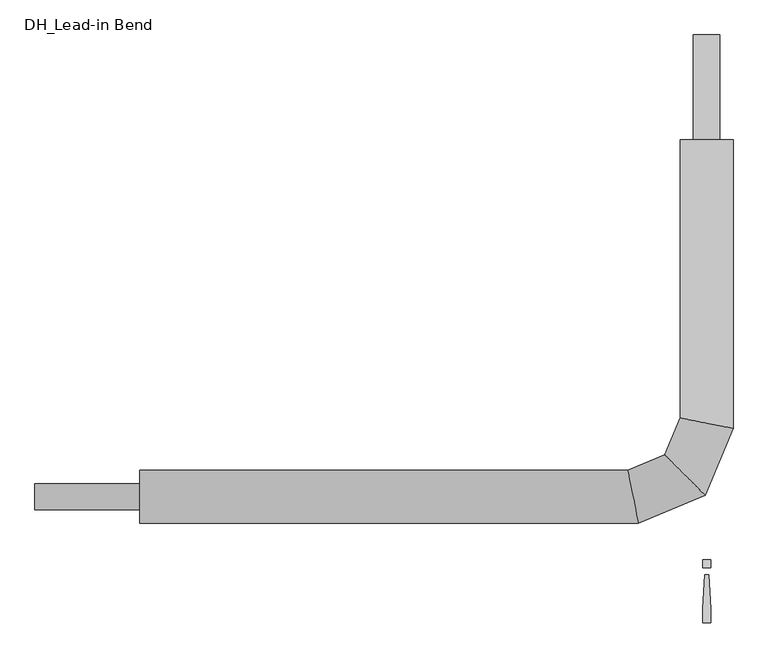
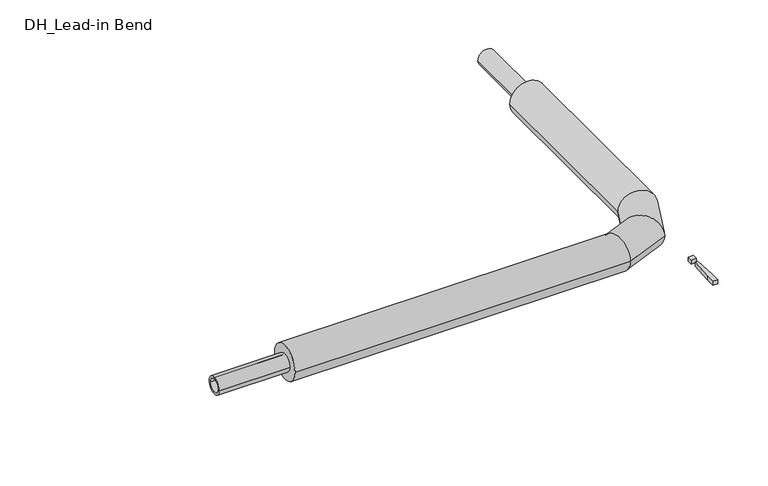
"""IFC4 building model written with IfcOpenShell, lengths in millimetres: pipe fitting geometry, DH_Lead-in Bend : RVT/RVX/RTX UNO 7.4 DW."""

import ifcopenshell
import ifcopenshell.guid

model = None  # the IFC model being written
_history = None  # IfcOwnerHistory: only IFC2X3 demands one
_inside = {}  # id of a spatial element -> (the spatial element, [elements in it])
_under = {}  # id of a project, library or spatial element -> (it, [spatial elements below it])
_declared = {}  # id of a project -> (the project, [libraries it declares])
_typed = {}  # id of a type object -> (the type object, [elements of that type])
_made_of = {}  # id of a material, layer set ... -> (it, [elements and type objects made of it])


def new_model(schema):
    """Start an empty IFC model of exactly this schema.

    Asked for "IFC4X3", IfcOpenShell would pick the latest addendum, in which some entities
    have other attributes; the version numbers below select the first issue.
    IFC2X3 requires an IfcOwnerHistory on every rooted entity: one is made here for all.
    """
    global model, _history
    if schema == "IFC4X3":
        model = ifcopenshell.file(schema_version=(4, 3, 0, 0))
    else:
        model = ifcopenshell.file(schema=schema)
    _inside.clear()
    _under.clear()
    _declared.clear()
    _typed.clear()
    _made_of.clear()
    _history = None
    if model.schema == "IFC2X3":
        org = make("IfcOrganization", Name="unknown")
        user = make(
            "IfcPersonAndOrganization",
            ThePerson=make("IfcPerson", FamilyName="unknown"),
            TheOrganization=org,
        )
        app = make(
            "IfcApplication",
            ApplicationDeveloper=org,
            Version="unknown",
            ApplicationFullName="unknown",
            ApplicationIdentifier="unknown",
        )
        _history = make(
            "IfcOwnerHistory",
            OwningUser=user,
            OwningApplication=app,
            ChangeAction="ADDED",
            CreationDate=0,
        )
    return model


def make(cls, **values):
    """One entity of the class cls with the attributes given. An attribute that is None is left unset."""
    return model.create_entity(
        cls, **{name: value for name, value in values.items() if value is not None}
    )


def rooted(cls, **values):
    """An entity with a GlobalId (a new one), such as an element, a storey or a relation."""
    return make(cls, GlobalId=ifcopenshell.guid.new(), OwnerHistory=_history, **values)


def si_unit(unit_type, name, prefix=None):
    """IfcSIUnit, for example si_unit("LENGTHUNIT", "METRE", prefix="MILLI")."""
    return make("IfcSIUnit", UnitType=unit_type, Prefix=prefix, Name=name)


def assignment(units):
    """IfcUnitAssignment: the units of a project."""
    return None if units is None else make("IfcUnitAssignment", Units=units)


def point(xyz):
    """IfcCartesianPoint."""
    return None if xyz is None else make("IfcCartesianPoint", Coordinates=xyz)


def direction(xyz):
    """IfcDirection."""
    return None if xyz is None else make("IfcDirection", DirectionRatios=xyz)


def frame(location, z_axis=None, x_axis=None):
    """IfcAxis2Placement3D, a coordinate frame: its origin and axes. An axis left out is left unset."""
    return make(
        "IfcAxis2Placement3D",
        Location=point(location),
        Axis=direction(z_axis),
        RefDirection=direction(x_axis),
    )


def frame_2d(location, x_axis=None):
    """IfcAxis2Placement2D, a coordinate frame in the plane: its origin and x axis."""
    return make(
        "IfcAxis2Placement2D", Location=point(location), RefDirection=direction(x_axis)
    )


def origin():
    """The frame at (0, 0, 0) with its axes left unset."""
    return frame((0.0, 0.0, 0.0))


def origin_with_axes():
    """The frame at (0, 0, 0) with the z axis (0, 0, 1) and the x axis (1, 0, 0) written out."""
    return frame((0.0, 0.0, 0.0), z_axis=(0.0, 0.0, 1.0), x_axis=(1.0, 0.0, 0.0))


def origin_2d():
    """The frame at (0, 0) in the plane with its x axis left unset."""
    return frame_2d((0.0, 0.0))


def place(relative_to, where):
    """IfcLocalPlacement: puts the frame where relative to a parent placement (None: the world)."""
    return make(
        "IfcLocalPlacement", PlacementRelTo=relative_to, RelativePlacement=where
    )


def context(
    kind, dimensions, precision=None, world=None, true_north=None, identifier=None
):
    """IfcGeometricRepresentationContext, for example the 3D "Model" context."""
    return make(
        "IfcGeometricRepresentationContext",
        ContextIdentifier=identifier,
        ContextType=kind,
        CoordinateSpaceDimension=dimensions,
        Precision=precision,
        WorldCoordinateSystem=world,
        TrueNorth=true_north,
    )


def project(units=None, contexts=None):
    """IfcProject with its units and contexts."""
    return rooted(
        "IfcProject",
        Name="project",
        RepresentationContexts=contexts,
        UnitsInContext=assignment(units),
    )


def spatial(cls, under=None, at=None, **own):
    """A site, building, storey or space (cls), placed at a placement, below another one or the project."""
    s = rooted(cls, ObjectPlacement=at, **own)
    if under is not None:
        _under.setdefault(under.id(), (under, []))[1].append(s)
    return s


def polyline(points):
    """IfcPolyline through the points."""
    return make("IfcPolyline", Points=[point(p) for p in points])


def circle_curve(where, radius):
    """IfcCircle in the frame where."""
    return make("IfcCircle", Position=where, Radius=radius)


def ellipse_curve(where, semi_axis1, semi_axis2):
    """IfcEllipse in the frame where."""
    return make(
        "IfcEllipse", Position=where, SemiAxis1=semi_axis1, SemiAxis2=semi_axis2
    )


def trimmed(basis, trim1, trim2, sense, master):
    """IfcTrimmedCurve: the piece of a basis curve between two trims."""
    return make(
        "IfcTrimmedCurve",
        BasisCurve=basis,
        Trim1=trim1,
        Trim2=trim2,
        SenseAgreement=sense,
        MasterRepresentation=master,
    )


def segment(curve, same_sense, transition):
    """IfcCompositeCurveSegment."""
    return make(
        "IfcCompositeCurveSegment",
        Transition=transition,
        SameSense=same_sense,
        ParentCurve=curve,
    )


def composite_curve(segments, self_intersect=None):
    """IfcCompositeCurve: segments joined end to end."""
    return make("IfcCompositeCurve", Segments=segments, SelfIntersect=self_intersect)


def outline(outer, holes=None, kind="AREA"):
    """IfcArbitraryClosedProfileDef: a profile drawn as a closed curve; with holes, ...WithVoids."""
    if holes is None:
        return make("IfcArbitraryClosedProfileDef", ProfileType=kind, OuterCurve=outer)
    return make(
        "IfcArbitraryProfileDefWithVoids",
        ProfileType=kind,
        OuterCurve=outer,
        InnerCurves=holes,
    )


def extrude(swept, where, along, depth):
    """IfcExtrudedAreaSolid: the profile swept, set in the frame where, extruded along a direction by depth."""
    return make(
        "IfcExtrudedAreaSolid",
        SweptArea=swept,
        Position=where,
        ExtrudedDirection=direction(along),
        Depth=depth,
    )


def shape(context_of_items, identifier, shape_type, items):
    """IfcShapeRepresentation: the items that make up one representation, for example the "Body"."""
    return make(
        "IfcShapeRepresentation",
        ContextOfItems=context_of_items,
        RepresentationIdentifier=identifier,
        RepresentationType=shape_type,
        Items=items,
    )


def source(mapping_origin, context_of_items, identifier, shape_type, items):
    """IfcRepresentationMap: a shape defined once, which mapped items show again and again."""
    return make(
        "IfcRepresentationMap",
        MappingOrigin=mapping_origin,
        MappedRepresentation=shape(context_of_items, identifier, shape_type, items),
    )


def transform(
    local_origin,
    x_axis=None,
    y_axis=None,
    z_axis=None,
    scale=None,
    scale2=None,
    scale3=None,
    uniform=True,
):
    """IfcCartesianTransformationOperator3D, or its non-uniform kind. x_axis, y_axis, z_axis: its Axis1, 2, 3."""
    if uniform:
        return make(
            "IfcCartesianTransformationOperator3D",
            Axis1=direction(x_axis),
            Axis2=direction(y_axis),
            LocalOrigin=point(local_origin),
            Scale=scale,
            Axis3=direction(z_axis),
        )
    return make(
        "IfcCartesianTransformationOperator3DnonUniform",
        Axis1=direction(x_axis),
        Axis2=direction(y_axis),
        LocalOrigin=point(local_origin),
        Scale=scale,
        Axis3=direction(z_axis),
        Scale2=scale2,
        Scale3=scale3,
    )


def mapped(mapping_source, mapping_target):
    """IfcMappedItem: shows the shape of a source again, moved by a transform."""
    return make(
        "IfcMappedItem", MappingSource=mapping_source, MappingTarget=mapping_target
    )


def made_of(thing, what):
    """Note that an element or type object is made of a material, layer set ...; save() writes the relation."""
    if what is not None:
        _made_of.setdefault(what.id(), (what, []))[1].append(thing)
    return thing


def element(
    cls,
    number,
    at=None,
    inside=None,
    cuts=None,
    type_object=None,
    material=None,
    context=None,
    identifier="Body",
    shape_type=None,
    held_by="IfcProductDefinitionShape",
    body=None,
    shapes=None,
    **own,
):
    """One element of the class cls, such as IfcWall. Its Tag is "e" and its number.

    at: its placement. inside: the storey or other place that contains it. cuts: it is an
    opening in that element (IfcRelVoidsElement). A single representation is given by context,
    identifier, shape_type and body (its items); several are given by shapes. held_by: the class
    of the entity that holds the representations. save() writes the other relations.
    """
    e = rooted(cls, Tag="e%d" % number, ObjectPlacement=at, **own)
    if body is not None:
        shapes = [shape(context, identifier, shape_type, body)]
    if shapes is not None:
        e.Representation = make(held_by, Representations=shapes)
    if inside is not None:
        _inside.setdefault(inside.id(), (inside, []))[1].append(e)
    if cuts is not None:
        rooted(
            "IfcRelVoidsElement", RelatingBuildingElement=cuts, RelatedOpeningElement=e
        )
    if type_object is not None:
        _typed.setdefault(type_object.id(), (type_object, []))[1].append(e)
    return made_of(e, material)


def aggregate(whole, parts):
    """IfcRelAggregates: a whole, such as a stair, and the parts it consists of."""
    return rooted("IfcRelAggregates", RelatingObject=whole, RelatedObjects=parts)


def save(model, path):
    """Write the relations noted so far, then the file.

    IfcRelAggregates (storeys below a building ...), IfcRelContainedInSpatialStructure (elements
    in a storey), IfcRelDefinesByType, IfcRelAssociatesMaterial and IfcRelDeclares: one each for
    every whole, place, type object, material and project.
    """
    for whole, parts in _under.values():
        aggregate(whole, parts)
    for where, things in _inside.values():
        rooted(
            "IfcRelContainedInSpatialStructure",
            RelatedElements=things,
            RelatingStructure=where,
        )
    for kind, things in _typed.values():
        rooted("IfcRelDefinesByType", RelatedObjects=things, RelatingType=kind)
    for what, things in _made_of.values():
        rooted("IfcRelAssociatesMaterial", RelatedObjects=things, RelatingMaterial=what)
    for by, libraries in _declared.values():
        rooted("IfcRelDeclares", RelatingContext=by, RelatedDefinitions=libraries)
    model.write(path)


def plane_surface(at):
    """IfcPlane: the flat surface through the origin of the frame at, square to its z axis."""
    return make("IfcPlane", Position=at)


def cylinder_surface(at, radius):
    """IfcCylindricalSurface: all points at the distance radius from the z axis of the frame at."""
    return make("IfcCylindricalSurface", Position=at, Radius=radius)


def advanced_brep(points, edges, surfaces, faces):
    """IfcAdvancedBrep: a solid bounded by faces that lie on surfaces and meet in shared edges.

    An edge is (start, end): straight between two places in points (the first is 0);
    or (start, end, curve); or (start, end, curve, False) where it runs against its curve.
    A face is (place in surfaces, loops), or (place, loops, False) where it looks against
    its surface's normal. A loop lists edges by number (the first is 1), with a minus sign
    where the edge is run from its end to its start. The first loop is the outer one.
    """
    corners = [point(p) for p in points]
    vertices = [make("IfcVertexPoint", VertexGeometry=c) for c in corners]
    made = []
    for start, end, *more in edges:
        made.append(
            make(
                "IfcEdgeCurve",
                EdgeStart=vertices[start],
                EdgeEnd=vertices[end],
                EdgeGeometry=more[0] if more else make("IfcPolyline", Points=[corners[start], corners[end]]),
                SameSense=more[1] if len(more) > 1 else True,
            )
        )
    hull = []
    for where, loops, *sense in faces:
        bounds = []
        for j, loop in enumerate(loops):
            ring = [make("IfcOrientedEdge", EdgeElement=made[abs(k) - 1], Orientation=k > 0) for k in loop]
            bounds.append(
                make(
                    "IfcFaceOuterBound" if j == 0 else "IfcFaceBound",
                    Bound=make("IfcEdgeLoop", EdgeList=ring),
                    Orientation=True,
                )
            )
        hull.append(make("IfcAdvancedFace", Bounds=bounds, FaceSurface=surfaces[where], SameSense=sense[0] if sense else True))
    return make("IfcAdvancedBrep", Outer=make("IfcClosedShell", CfsFaces=hull))


def dh_lead_in_bend_f90659fa(model_context):
    return source(origin(), model_context, "Body", "SolidModel", [
        advanced_brep(
        [(-1350.0, -63.0, 0.0), (-1350.0, 63.0, 0.0), (-162.9685209, -63.0, 0.0), (-188.0314791, 63.0, 0.0), (63.0, 850.0, 0.0), (-63.0, 850.0, 0.0), (-63.0, 188.0314791, 0.0), (63.0, 162.9685209, 0.0), (-3.1846474, 3.1846474, 0.0), (-99.6208724, 99.6208724, 0.0)],
        [
            (0, 1, circle_curve(frame((-1350.0, 0.0, 0.0), z_axis=(-1.0, 0.0, 0.0), x_axis=(0.0, 1.0, 0.0)), 63.0)),
            (1, 0, circle_curve(frame((-1350.0, 0.0, 0.0), z_axis=(-1.0, 0.0, 0.0), x_axis=(0.0, 1.0, 0.0)), 63.0)),
            (0, 2),
            (2, 3, ellipse_curve(frame((-175.5, 0.0, 0.0), z_axis=(-0.9807852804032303, -0.19509032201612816, 0.0), x_axis=(-0.19509032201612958, 0.9807852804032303, 0.0)), 64.234243, 63.0)),
            (3, 1),
            (3, 2, ellipse_curve(frame((-175.5, 0.0, 0.0), z_axis=(-0.9807852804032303, -0.19509032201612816, 0.0), x_axis=(-0.19509032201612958, 0.9807852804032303, 0.0)), 64.234243, 63.0)),
            (4, 5, circle_curve(frame((0.0, 850.0, 0.0), z_axis=(0.0, 1.0, 0.0), x_axis=(-1.0, 0.0, 0.0)), 63.0)),
            (5, 4, circle_curve(frame((0.0, 850.0, 0.0), z_axis=(0.0, 1.0, 0.0), x_axis=(-1.0, 0.0, 0.0)), 63.0)),
            (6, 7, ellipse_curve(frame((0.0, 175.5, 0.0), z_axis=(0.19509032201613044, 0.9807852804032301, 0.0), x_axis=(0.9807852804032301, -0.19509032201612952, 0.0)), 64.234243, 63.0)),
            (7, 4),
            (5, 6),
            (7, 6, ellipse_curve(frame((0.0, 175.5, 0.0), z_axis=(0.19509032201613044, 0.9807852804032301, 0.0), x_axis=(0.9807852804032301, -0.19509032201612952, 0.0)), 64.234243, 63.0)),
            (2, 8),
            (8, 9, ellipse_curve(frame((-51.4027599, 51.4027599, 0.0), z_axis=(-0.7071067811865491, -0.707106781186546, 0.0), x_axis=(-0.7071067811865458, 0.7071067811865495, 0.0)), 68.1907086, 63.0)),
            (9, 3),
            (9, 8, ellipse_curve(frame((-51.4027599, 51.4027599, 0.0), z_axis=(-0.7071067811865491, -0.707106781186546, 0.0), x_axis=(-0.7071067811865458, 0.7071067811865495, 0.0)), 68.1907086, 63.0)),
            (8, 7),
            (6, 9),
        ],
        [
            plane_surface(frame((-1350.0, 0.0, 0.0), z_axis=(-1.0, 0.0, 0.0), x_axis=(0.0, 0.0, 1.0))),
            cylinder_surface(frame((-1350.0, 0.0, 0.0), z_axis=(-1.0, 0.0, 0.0), x_axis=(0.0, 1.0, 0.0)), 63.0),
            plane_surface(frame((0.0, 850.0, 0.0), z_axis=(0.0, 1.0, 0.0), x_axis=(0.0, 0.0, 1.0))),
            cylinder_surface(frame((0.0, 175.5, 0.0), z_axis=(0.0, -1.0, 0.0), x_axis=(-1.0, 0.0, 0.0)), 63.0),
            cylinder_surface(frame((-175.5, 0.0, 0.0), z_axis=(-0.9238795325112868, -0.38268343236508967, 0.0), x_axis=(-0.38268343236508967, 0.9238795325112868, 0.0)), 63.0),
            cylinder_surface(frame((-51.4027599, 51.4027599, 0.0), z_axis=(-0.3826834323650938, -0.9238795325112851, 0.0), x_axis=(-0.9238795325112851, 0.3826834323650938, 0.0)), 63.0),
        ],
        [
            (0, [[1, 2]]),
            (1, [[-1, 3, 4, 5]]),
            (1, [[-2, -5, 6, -3]]),
            (2, [[7, 8]]),
            (3, [[9, 10, -8, 11]]),
            (3, [[12, -11, -7, -10]]),
            (4, [[-4, 13, 14, 15]]),
            (4, [[-6, -15, 16, -13]]),
            (5, [[-14, 17, -9, 18]]),
            (5, [[-16, -18, -12, -17]]),
        ],
    ),
        extrude(outline(polyline([(4.7088895, -185.3166715), (9.4177791, -266.6553807), (9.4177791, -300.6844652), (-9.4177791, -300.6844652), (-9.4177791, -266.6553807), (-4.7088895, -185.3166715), (4.7088895, -185.3166715)])), origin_with_axes(), (0.0, 0.0, 1.0), 15.0),
        extrude(outline(polyline([(9.4177791, -150.0), (9.4177791, -168.8355582), (-9.4177791, -168.8355582), (-9.4177791, -150.0), (9.4177791, -150.0)])), origin_with_axes(), (0.0, 0.0, 1.0), 15.0),
        extrude(outline(composite_curve([segment(trimmed(circle_curve(origin_2d(), 31.5), [point((-31.5, 0.0))], [point((31.5, 0.0))], False, "CARTESIAN"), True, "CONTINUOUS"), segment(trimmed(circle_curve(origin_2d(), 31.5), [point((31.5, 0.0))], [point((-31.5, 0.0))], False, "CARTESIAN"), True, "CONTINUOUS")], self_intersect=False), holes=[composite_curve([segment(trimmed(circle_curve(origin_2d(), 22.9), [point((-22.9, 0.0))], [point((22.9, 0.0))], True, "CARTESIAN"), True, "CONTINUOUS"), segment(trimmed(circle_curve(origin_2d(), 22.9), [point((22.9, 0.0))], [point((-22.9, 0.0))], True, "CARTESIAN"), True, "CONTINUOUS")], self_intersect=False)]), frame((-1600.0, 0.0, 0.0), z_axis=(1.0, 0.0, 0.0), x_axis=(0.0, 1.0, 0.0)), (0.0, 0.0, 1.0), 250.0),
        extrude(outline(composite_curve([segment(trimmed(circle_curve(origin_2d(), 31.5), [point((0.0, 31.5))], [point((0.0, -31.5))], False, "CARTESIAN"), True, "CONTINUOUS"), segment(trimmed(circle_curve(origin_2d(), 31.5), [point((0.0, -31.5))], [point((0.0, 31.5))], False, "CARTESIAN"), True, "CONTINUOUS")], self_intersect=False), holes=[composite_curve([segment(trimmed(circle_curve(origin_2d(), 22.9), [point((0.0, 22.9))], [point((0.0, -22.9))], True, "CARTESIAN"), True, "CONTINUOUS"), segment(trimmed(circle_curve(origin_2d(), 22.9), [point((0.0, -22.9))], [point((0.0, 22.9))], True, "CARTESIAN"), True, "CONTINUOUS")], self_intersect=False)]), frame((0.0, 850.0, 0.0), z_axis=(0.0, 1.0, 0.0), x_axis=(0.0, 0.0, 1.0)), (0.0, 0.0, 1.0), 250.0),
    ])


if __name__ == "__main__":
    model = new_model("IFC4")
    model_context = context("Model", 3, world=origin())
    ifc_project = project(units=[si_unit("LENGTHUNIT", "METRE", prefix="MILLI")], contexts=[model_context])
    site = spatial("IfcSite", under=ifc_project)
    building = spatial("IfcBuilding", under=site)
    placement = place(None, origin())
    dh_lead_in_bend_shape = dh_lead_in_bend_f90659fa(model_context)
    element("IfcPipeFitting", 1, ObjectType="DH_Lead-in Bend : RVT/RVX/RTX UNO 7.4 DW", at=placement, inside=building, context=model_context, shape_type="MappedRepresentation", body=[
        mapped(dh_lead_in_bend_shape, transform((0.0, 0.0, 0.0), x_axis=(1.0, 0.0, 0.0), y_axis=(0.0, 1.0, 0.0), z_axis=(0.0, 0.0, 1.0))),
    ])
    save(model, "model.ifc")
